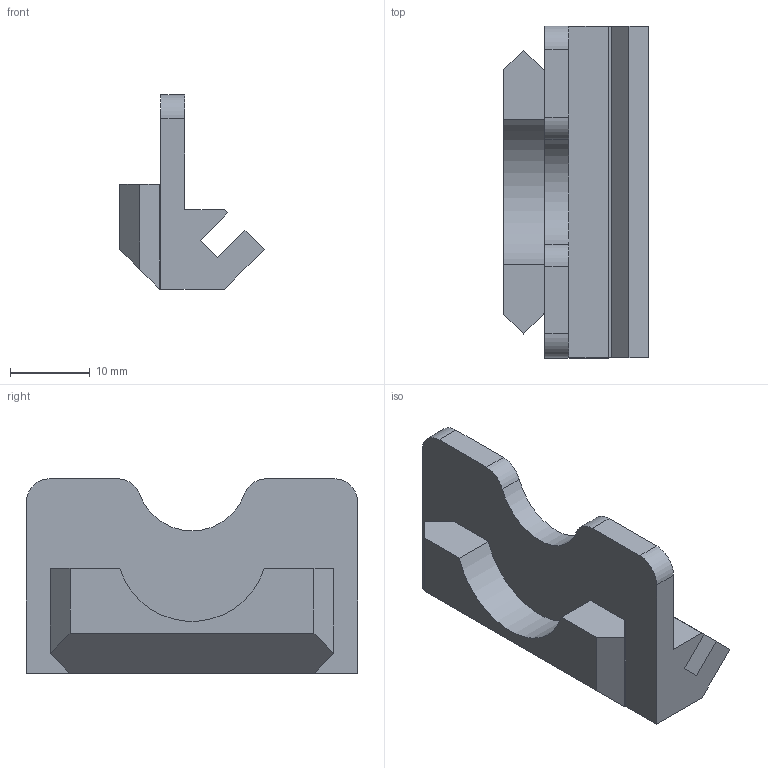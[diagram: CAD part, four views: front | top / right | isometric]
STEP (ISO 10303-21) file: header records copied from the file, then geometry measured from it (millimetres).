
FILE_DESCRIPTION(/* description */ ('','CAx-IF Rec.Pracs.---Representation and Presentation of Product Manufacturing Information (PMI)---4.0---2014-10-13'),/* implementation_level */ '2;1');
FILE_NAME(/* name */ 'Shelf Support Plate.step',/* time_stamp */ '2024-11-28T18:06:12-05:00',/* author */ (''),/* organization */ (''),/* preprocessor_version */ 'ST-DEVELOPER v20',/* originating_system */ 'Autodesk Translation Framework v13.20.0.188',/* authorisation */ '');
FILE_SCHEMA (('AP242_MANAGED_MODEL_BASED_3D_ENGINEERING_MIM_LF { 1 0 10303 442 1 1 4 }'));
Length unit declared in the file: millimetre
Products named in the file (1): Shelf Support Plate
Bounding box: 18.15 x 41.6 x 24.39 mm (x, y, z)
Volume: 6678.7 mm3; surface area: 3842.5 mm2
Topology: 1 solids, 1 shells, 31 faces, 82 edges, 54 vertices
Faces by surface type: plane 25, cylinder 6
Entity records: 985 total; most frequent: CARTESIAN_POINT 168, ORIENTED_EDGE 164, DIRECTION 158, EDGE_CURVE 82, LINE 70, VECTOR 70, VERTEX_POINT 54, AXIS2_PLACEMENT_3D 44
